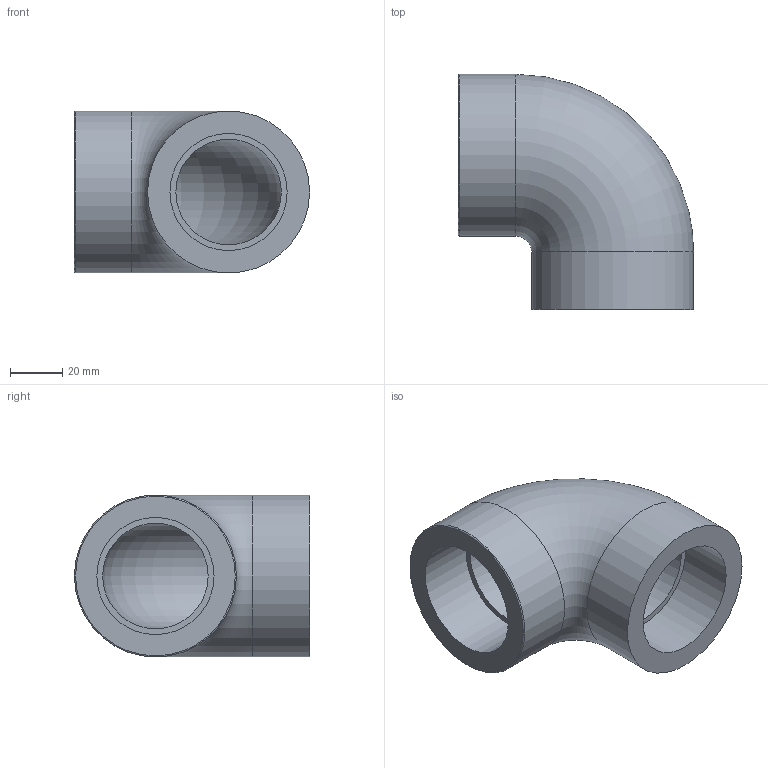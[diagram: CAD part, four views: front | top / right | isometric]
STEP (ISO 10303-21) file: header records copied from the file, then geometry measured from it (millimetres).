
FILE_DESCRIPTION(/* description */ ('PLASSON THREADED 90° ELBOW PVC 1.1/2"'),/* implementation_level */ '2;1');
FILE_NAME(/* name */ 'C:\Dropbox\KIMPROJECTS-Inventor\99-16-3568-Processing\PVC Catalog 2017\050501\050501015.ipt.stp',/* time_stamp */ '2017-12-07T15:55:52+02:00',/* author */ ('KIM'),/* organization */ (''),/* preprocessor_version */ 'ST-DEVELOPER v15.6',/* originating_system */ 'Autodesk Inventor 2015',/* authorisation */ '');
FILE_SCHEMA (('AUTOMOTIVE_DESIGN { 1 0 10303 214 3 1 1 }'));
Length unit declared in the file: millimetre
Products named in the file (1): 050501015
Bounding box: 90 x 90 x 62 mm (x, y, z)
Volume: 164442.3 mm3; surface area: 36900.7 mm2
Topology: 1 solids, 1 shells, 11 faces, 21 edges, 14 vertices
Faces by surface type: cylinder 4, plane 4, torus 3
Full cylindrical faces by diameter (mm): 44.845 x2, 62 x2
Entity records: 252 total; most frequent: DIRECTION 46, CARTESIAN_POINT 34, AXIS2_PLACEMENT_3D 23, EDGE_LOOP 22, ORIENTED_EDGE 22, FACE_BOUND 11, FACE_OUTER_BOUND 11, CIRCLE 11
